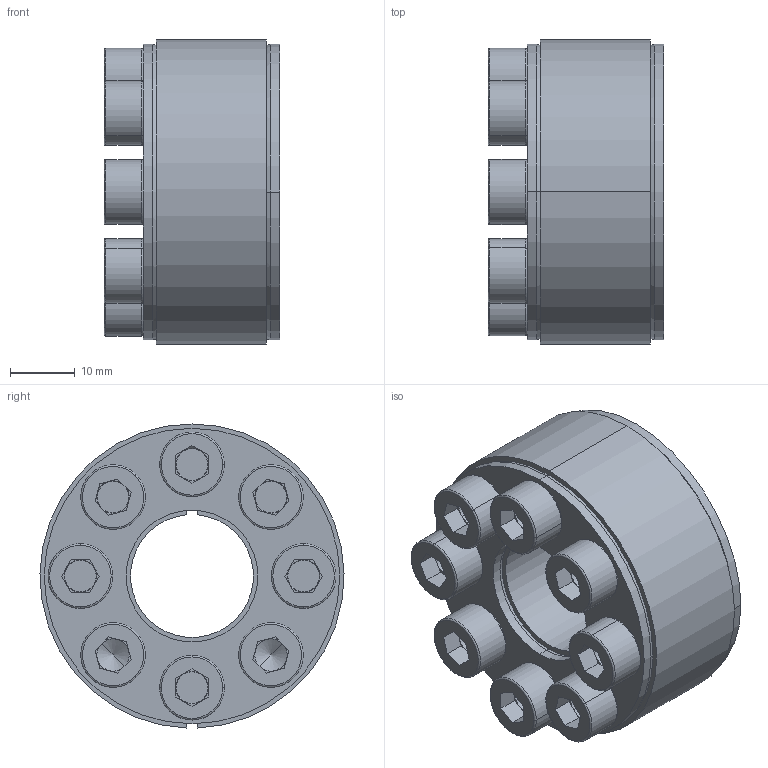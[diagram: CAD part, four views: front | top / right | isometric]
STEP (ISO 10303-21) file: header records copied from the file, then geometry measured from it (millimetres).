
FILE_DESCRIPTION (( 'STEP AP203' ), '1' );
FILE_NAME ('19-47ASSY.STEP', '2017-10-10T04:04:26', ( 'MYCOM' ), ( '' ), 'SwSTEP 2.0', 'SolidWorks 2015', '' );
FILE_SCHEMA (( 'CONFIG_CONTROL_DESIGN' ));
Length unit declared in the file: millimetre
Products named in the file (1): 19-47ASSY
Bounding box: 27.14 x 46.99 x 46.99 mm (x, y, z)
Surface area: 13767.4 mm2 (no closed solid volume)
Topology: 0 solids, 20 shells, 238 faces, 575 edges, 354 vertices
Faces by surface type: plane 121, cylinder 59, torus 32, cone 26
Entity records: 6960 total; most frequent: DIRECTION 1313, CARTESIAN_POINT 1206, ORIENTED_EDGE 1039, EDGE_CURVE 571, AXIS2_PLACEMENT_3D 511, VERTEX_POINT 354, VECTOR 291, LINE 291
